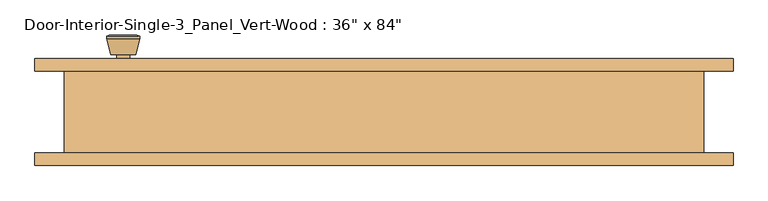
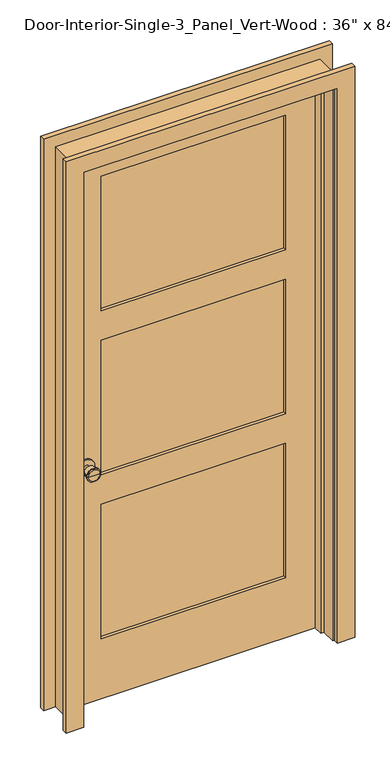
"""IFC4 building model written with IfcOpenShell, lengths in millimetres: door geometry."""

from ifc_helpers import new_model, si_unit, point, frame, frame_2d, origin, place, context, project, spatial, polyline, circle_curve, trimmed, segment, composite_curve, outline, extrude, faceted_brep, source, transform, mapped, element, save
from ifc_brep_helpers import plane_surface, cylinder_surface, revolved_surface, advanced_brep


def door_2a6061a4(model_context):
    return source(origin(), model_context, "Body", "SolidModel", [
        advanced_brep(
        [(-393.7, 17.8125, 914.4), (-383.7, 17.8125, 914.4), (-403.7, 17.8125, 914.4), (-373.2241324, -31.1875, 914.4), (-393.7, -31.1875, 914.4), (-414.1758676, -31.1875, 914.4), (-368.7, -29.3596319, 914.4), (-418.7, -29.3596319, 914.4), (-368.7, -25.8959537, 914.4), (-418.7, -25.8959537, 914.4), (-375.063764, -1.1875, 914.4), (-412.336236, -1.1875, 914.4), (-383.7, -1.1875, 914.4), (-403.7, -1.1875, 914.4)],
        [
            (0, 1),
            (1, 2, circle_curve(frame((-393.7, 17.8125, 914.4), z_axis=(0.0, 1.0, 0.0), x_axis=(-1.0, 0.0, 0.0)), 10.0)),
            (2, 0),
            (2, 1, circle_curve(frame((-393.7, 17.8125, 914.4), z_axis=(0.0, 1.0, 0.0), x_axis=(-1.0, 0.0, 0.0)), 10.0)),
            (3, 4),
            (4, 5),
            (5, 3, circle_curve(frame((-393.7, -31.1875, 914.4), z_axis=(0.0, -1.0, 0.0), x_axis=(-1.0, 0.0, 0.0)), 20.4758676)),
            (3, 5, circle_curve(frame((-393.7, -31.1875, 914.4), z_axis=(0.0, -1.0, 0.0), x_axis=(-1.0, 0.0, 0.0)), 20.4758676)),
            (6, 3),
            (5, 7),
            (7, 6, circle_curve(frame((-393.7, -29.3596319, 914.4), z_axis=(0.0, -1.0, 0.0), x_axis=(-1.0, 0.0, 0.0)), 25.0)),
            (6, 7, circle_curve(frame((-393.7, -29.3596319, 914.4), z_axis=(0.0, -1.0, 0.0), x_axis=(-1.0, 0.0, 0.0)), 25.0)),
            (8, 6),
            (7, 9),
            (9, 8, circle_curve(frame((-393.7, -25.8959537, 914.4), z_axis=(0.0, -1.0, 0.0), x_axis=(-1.0, 0.0, 0.0)), 25.0)),
            (8, 9, circle_curve(frame((-393.7, -25.8959537, 914.4), z_axis=(0.0, -1.0, 0.0), x_axis=(-1.0, 0.0, 0.0)), 25.0)),
            (10, 8),
            (9, 11),
            (11, 10, circle_curve(frame((-393.7, -1.1875, 914.4), z_axis=(0.0, -1.0, 0.0), x_axis=(-1.0, 0.0, 0.0)), 18.636236)),
            (10, 11, circle_curve(frame((-393.7, -1.1875, 914.4), z_axis=(0.0, -1.0, 0.0), x_axis=(-1.0, 0.0, 0.0)), 18.636236)),
            (12, 10),
            (11, 13),
            (13, 12, circle_curve(frame((-393.7, -1.1875, 914.4), z_axis=(0.0, -1.0, 0.0), x_axis=(-1.0, 0.0, 0.0)), 10.0)),
            (12, 13, circle_curve(frame((-393.7, -1.1875, 914.4), z_axis=(0.0, -1.0, 0.0), x_axis=(-1.0, 0.0, 0.0)), 10.0)),
            (1, 12),
            (13, 2),
        ],
        [
            plane_surface(frame((-393.7, 17.8125, 914.4), z_axis=(0.0, 1.0, 0.0), x_axis=(-1.0, 0.0, 0.0))),
            plane_surface(frame((-393.7, -31.1875, 914.4), z_axis=(0.0, -1.0, 0.0), x_axis=(-1.0, 0.0, 0.0))),
            revolved_surface(polyline([(-414.1758676, -31.1875, 914.4), (-418.7, -29.3596319, 914.4)]), (-393.7, 17.8125, 914.4), (0.0, 1.0, 0.0)),
            cylinder_surface(frame((-393.7, 17.8125, 914.4), z_axis=(0.0, 1.0, 0.0), x_axis=(-1.0, 0.0, 0.0)), 25.0),
            revolved_surface(polyline([(-418.7, -25.8959537, 914.4), (-412.336236, -1.1875, 914.4)]), (-393.7, 17.8125, 914.4), (0.0, 1.0, 0.0)),
            plane_surface(frame((-393.7, -1.1875, 914.4), z_axis=(0.0, 1.0, 0.0), x_axis=(-1.0, 0.0, 0.0))),
            cylinder_surface(frame((-393.7, 17.8125, 914.4), z_axis=(0.0, 1.0, 0.0), x_axis=(-1.0, 0.0, 0.0)), 10.0),
        ],
        [
            (0, [[1, 2, 3]]),
            (0, [[-3, 4, -1]]),
            (1, [[5, 6, 7]]),
            (1, [[-6, -5, 8]]),
            (2, [[9, -7, 10, 11]]),
            (2, [[-10, -8, -9, 12]]),
            (3, [[13, -11, 14, 15]]),
            (3, [[-14, -12, -13, 16]]),
            (4, [[17, -15, 18, 19]]),
            (4, [[-18, -16, -17, 20]]),
            (5, [[21, -19, 22, 23]]),
            (5, [[-22, -20, -21, 24]]),
            (6, [[25, -23, 26, -2]]),
            (6, [[-26, -24, -25, -4]]),
        ],
    ),
        extrude(outline(composite_curve([segment(trimmed(circle_curve(frame_2d((914.4, -393.7)), 30.0), [point((914.4, -423.7))], [point((914.4, -363.7))], False, "CARTESIAN"), True, "CONTINUOUS"), segment(trimmed(circle_curve(frame_2d((914.4, -393.7)), 30.0), [point((914.4, -363.7))], [point((914.4, -423.7))], False, "CARTESIAN"), True, "CONTINUOUS")], self_intersect=False)), frame((0.0, 17.8125, 0.0), z_axis=(0.0, 1.0, 0.0), x_axis=(0.0, 0.0, 1.0)), (0.0, 0.0, 1.0), 6.0),
        advanced_brep(
        [(-393.7, 64.7375, 914.4), (-403.7, 64.7375, 914.4), (-383.7, 64.7375, 914.4), (-373.2241324, 113.7375, 914.4), (-414.1758676, 113.7375, 914.4), (-393.7, 113.7375, 914.4), (-368.7, 111.9096319, 914.4), (-418.7, 111.9096319, 914.4), (-368.7, 108.4459537, 914.4), (-418.7, 108.4459537, 914.4), (-375.063764, 83.7375, 914.4), (-412.336236, 83.7375, 914.4), (-383.7, 83.7375, 914.4), (-403.7, 83.7375, 914.4)],
        [
            (0, 1),
            (1, 2, circle_curve(frame((-393.7, 64.7375, 914.4), z_axis=(0.0, -1.0, 0.0), x_axis=(-1.0, 0.0, 0.0)), 10.0)),
            (2, 0),
            (2, 1, circle_curve(frame((-393.7, 64.7375, 914.4), z_axis=(0.0, -1.0, 0.0), x_axis=(-1.0, 0.0, 0.0)), 10.0)),
            (3, 4, circle_curve(frame((-393.7, 113.7375, 914.4), z_axis=(0.0, 1.0, 0.0), x_axis=(-1.0, 0.0, 0.0)), 20.4758676)),
            (4, 5),
            (5, 3),
            (4, 3, circle_curve(frame((-393.7, 113.7375, 914.4), z_axis=(0.0, 1.0, 0.0), x_axis=(-1.0, 0.0, 0.0)), 20.4758676)),
            (6, 7, circle_curve(frame((-393.7, 111.9096319, 914.4), z_axis=(0.0, 1.0, 0.0), x_axis=(-1.0, 0.0, 0.0)), 25.0)),
            (7, 4),
            (3, 6),
            (7, 6, circle_curve(frame((-393.7, 111.9096319, 914.4), z_axis=(0.0, 1.0, 0.0), x_axis=(-1.0, 0.0, 0.0)), 25.0)),
            (8, 9, circle_curve(frame((-393.7, 108.4459537, 914.4), z_axis=(0.0, 1.0, 0.0), x_axis=(-1.0, 0.0, 0.0)), 25.0)),
            (9, 7),
            (6, 8),
            (9, 8, circle_curve(frame((-393.7, 108.4459537, 914.4), z_axis=(0.0, 1.0, 0.0), x_axis=(-1.0, 0.0, 0.0)), 25.0)),
            (10, 11, circle_curve(frame((-393.7, 83.7375, 914.4), z_axis=(0.0, 1.0, 0.0), x_axis=(-1.0, 0.0, 0.0)), 18.636236)),
            (11, 9),
            (8, 10),
            (11, 10, circle_curve(frame((-393.7, 83.7375, 914.4), z_axis=(0.0, 1.0, 0.0), x_axis=(-1.0, 0.0, 0.0)), 18.636236)),
            (12, 13, circle_curve(frame((-393.7, 83.7375, 914.4), z_axis=(0.0, 1.0, 0.0), x_axis=(-1.0, 0.0, 0.0)), 10.0)),
            (13, 11),
            (10, 12),
            (13, 12, circle_curve(frame((-393.7, 83.7375, 914.4), z_axis=(0.0, 1.0, 0.0), x_axis=(-1.0, 0.0, 0.0)), 10.0)),
            (1, 13),
            (12, 2),
        ],
        [
            plane_surface(frame((-393.7, 64.7375, 914.4), z_axis=(0.0, -1.0, 0.0), x_axis=(-1.0, 0.0, 0.0))),
            plane_surface(frame((-393.7, 113.7375, 914.4), z_axis=(0.0, 1.0, 0.0), x_axis=(-1.0, 0.0, 0.0))),
            revolved_surface(polyline([(-414.1758676, 113.7375, 914.4), (-418.7, 111.9096319, 914.4)]), (-393.7, 64.7375, 914.4), (0.0, -1.0, 0.0)),
            cylinder_surface(frame((-393.7, 64.7375, 914.4), z_axis=(0.0, -1.0, 0.0), x_axis=(-1.0, 0.0, 0.0)), 25.0),
            revolved_surface(polyline([(-418.7, 108.4459537, 914.4), (-412.336236, 83.7375, 914.4)]), (-393.7, 64.7375, 914.4), (0.0, -1.0, 0.0)),
            plane_surface(frame((-393.7, 83.7375, 914.4), z_axis=(0.0, -1.0, 0.0), x_axis=(-1.0, 0.0, 0.0))),
            cylinder_surface(frame((-393.7, 64.7375, 914.4), z_axis=(0.0, -1.0, 0.0), x_axis=(-1.0, 0.0, 0.0)), 10.0),
        ],
        [
            (0, [[1, 2, 3]]),
            (0, [[-3, 4, -1]]),
            (1, [[5, 6, 7]]),
            (1, [[8, -7, -6]]),
            (2, [[9, 10, -5, 11]]),
            (2, [[12, -11, -8, -10]]),
            (3, [[13, 14, -9, 15]]),
            (3, [[16, -15, -12, -14]]),
            (4, [[17, 18, -13, 19]]),
            (4, [[20, -19, -16, -18]]),
            (5, [[21, 22, -17, 23]]),
            (5, [[24, -23, -20, -22]]),
            (6, [[-2, 25, -21, 26]]),
            (6, [[-4, -26, -24, -25]]),
        ],
    ),
        extrude(outline(composite_curve([segment(trimmed(circle_curve(frame_2d((914.4, -393.7)), 30.0), [point((914.4, -423.7))], [point((914.4, -363.7))], False, "CARTESIAN"), True, "CONTINUOUS"), segment(trimmed(circle_curve(frame_2d((914.4, -393.7)), 30.0), [point((914.4, -363.7))], [point((914.4, -423.7))], False, "CARTESIAN"), True, "CONTINUOUS")], self_intersect=False)), frame((0.0, 58.7375, 0.0), z_axis=(0.0, 1.0, 0.0), x_axis=(0.0, 0.0, 1.0)), (0.0, 0.0, 1.0), 6.0),
        extrude(outline(polyline([(336.55, 35.4541667), (-336.55, 35.4541667), (-336.55, 47.0958333), (336.55, 47.0958333), (336.55, 35.4541667)])), frame((0.0, 0.0, 1496.4833333), z_axis=(0.0, 0.0, 1.0), x_axis=(1.0, 0.0, 0.0)), (0.0, 0.0, 1.0), 518.0541667),
        extrude(outline(polyline([(336.55, 35.4541667), (-336.55, 35.4541667), (-336.55, 47.0958333), (336.55, 47.0958333), (336.55, 35.4541667)])), frame((0.0, 0.0, 231.775), z_axis=(0.0, 0.0, 1.0), x_axis=(1.0, 0.0, 0.0)), (0.0, 0.0, 1.0), 518.0541667),
        extrude(outline(polyline([(336.55, 35.4541667), (-336.55, 35.4541667), (-336.55, 47.0958333), (336.55, 47.0958333), (336.55, 35.4541667)])), frame((0.0, 0.0, 864.1291667), z_axis=(0.0, 0.0, 1.0), x_axis=(1.0, 0.0, 0.0)), (0.0, 0.0, 1.0), 518.0541667),
        extrude(outline(polyline([(2133.6, -457.2), (0.0, -457.2), (0.0, 457.2), (2133.6, 457.2), (2133.6, -457.2)]), holes=[polyline([(2014.5375, -336.55), (2014.5375, 336.55), (1496.4833333, 336.55), (1496.4833333, -336.55), (2014.5375, -336.55)]), polyline([(749.8291667, -336.55), (749.8291667, 336.55), (231.775, 336.55), (231.775, -336.55), (749.8291667, -336.55)]), polyline([(1382.1833333, -336.55), (1382.1833333, 336.55), (864.1291667, 336.55), (864.1291667, -336.55), (1382.1833333, -336.55)])]), frame((0.0, 23.8125, 0.0), z_axis=(0.0, 1.0, 0.0), x_axis=(0.0, 0.0, 1.0)), (0.0, 0.0, 1.0), 34.925),
        faceted_brep([(482.6, 58.7375, 0.0), (482.6, -65.0875, 0.0), (457.2, -65.0875, 0.0), (457.2, -11.1125, 0.0), (444.5, -11.1125, 0.0), (444.5, 23.8125, 0.0), (457.2, 23.8125, 0.0), (457.2, 58.7375, 0.0), (482.6, 58.7375, 2159.0), (482.6, -65.0875, 2159.0), (-482.6, -65.0875, 2159.0), (-482.6, -65.0875, 0.0), (-457.2, -65.0875, 0.0), (-457.2, -65.0875, 2133.6), (457.2, -65.0875, 2133.6), (457.2, -11.1125, 2133.6), (-457.2, -11.1125, 2133.6), (-457.2, -11.1125, 0.0), (-444.5, -11.1125, 0.0), (-444.5, -11.1125, 2120.9), (444.5, -11.1125, 2120.9), (444.5, 23.8125, 2120.9), (-444.5, 23.8125, 2120.9), (-444.5, 23.8125, 0.0), (-457.2, 23.8125, 0.0), (-457.2, 23.8125, 2133.6), (457.2, 23.8125, 2133.6), (457.2, 58.7375, 2133.6), (-457.2, 58.7375, 2133.6), (-457.2, 58.7375, 0.0), (-482.6, 58.7375, 0.0), (-482.6, 58.7375, 2159.0)], [[[0, 1, 2, 3, 4, 5, 6, 7]], [[1, 0, 8, 9]], [[2, 1, 9, 10, 11, 12, 13, 14]], [[3, 2, 14, 15]], [[4, 3, 15, 16, 17, 18, 19, 20]], [[5, 4, 20, 21]], [[6, 5, 21, 22, 23, 24, 25, 26]], [[7, 6, 26, 27]], [[0, 7, 27, 28, 29, 30, 31, 8]], [[9, 8, 31, 10]], [[15, 14, 13, 16]], [[21, 20, 19, 22]], [[27, 26, 25, 28]], [[30, 29, 24, 23, 18, 17, 12, 11]], [[10, 31, 30, 11]], [[16, 13, 12, 17]], [[22, 19, 18, 23]], [[28, 25, 24, 29]]]),
        extrude(outline(polyline([(0.0, 463.55), (0.0, 527.05), (2203.45, 527.05), (2203.45, -527.05), (0.0, -527.05), (0.0, -463.55), (2139.95, -463.55), (2139.95, 463.55), (0.0, 463.55)])), frame((0.0, -84.1375, 0.0), z_axis=(0.0, 1.0, 0.0), x_axis=(0.0, 0.0, 1.0)), (0.0, 0.0, 1.0), 19.05),
        extrude(outline(polyline([(0.0, 463.55), (0.0, 527.05), (2203.45, 527.05), (2203.45, -527.05), (0.0, -527.05), (0.0, -463.55), (2139.95, -463.55), (2139.95, 463.55), (0.0, 463.55)])), frame((0.0, 58.7375, 0.0), z_axis=(0.0, 1.0, 0.0), x_axis=(0.0, 0.0, 1.0)), (0.0, 0.0, 1.0), 19.05),
    ])


if __name__ == "__main__":
    model = new_model("IFC4")
    model_context = context("Model", 3, world=origin())
    ifc_project = project(units=[si_unit("LENGTHUNIT", "METRE", prefix="MILLI")], contexts=[model_context])
    site = spatial("IfcSite", under=ifc_project)
    building = spatial("IfcBuilding", under=site)
    placement = place(None, origin())
    door_shape = door_2a6061a4(model_context)
    element("IfcDoor", 1, ObjectType="Door-Interior-Single-3_Panel_Vert-Wood : 36\" x 84\"", at=placement, inside=building, context=model_context, shape_type="MappedRepresentation", body=[
        mapped(door_shape, transform((0.0, 0.0, 0.0), x_axis=(1.0, 0.0, 0.0), y_axis=(0.0, 1.0, 0.0), z_axis=(0.0, 0.0, 1.0))),
    ])
    save(model, "model.ifc")
